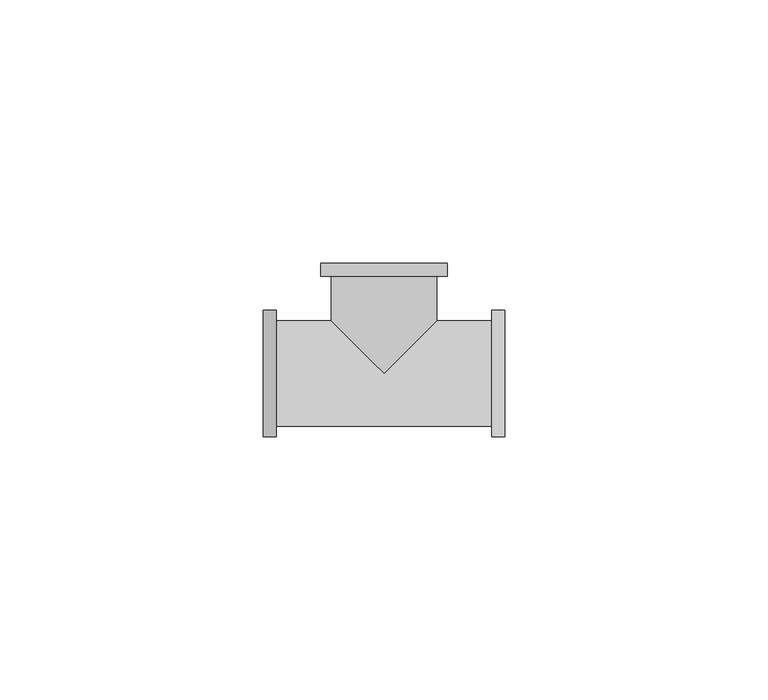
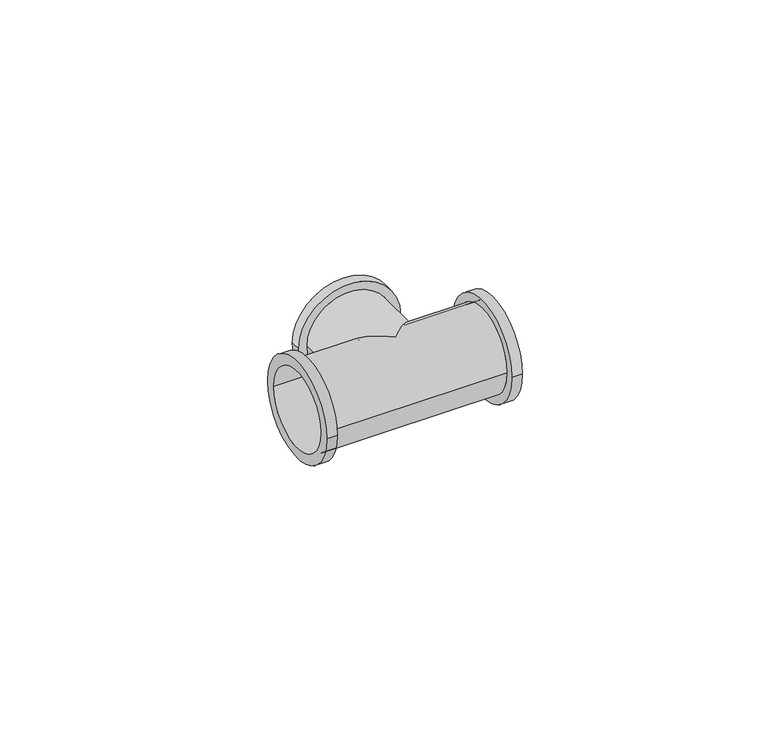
"""IFC4 building model written with IfcOpenShell, lengths in millimetres: pipe fitting geometry, БИР ПЕКС_КМП_Тройник_ВР : Тройник с внутренней резьбой_КМП."""

import ifcopenshell
import ifcopenshell.guid

model = None  # the IFC model being written
_history = None  # IfcOwnerHistory: only IFC2X3 demands one
_inside = {}  # id of a spatial element -> (the spatial element, [elements in it])
_under = {}  # id of a project, library or spatial element -> (it, [spatial elements below it])
_declared = {}  # id of a project -> (the project, [libraries it declares])
_typed = {}  # id of a type object -> (the type object, [elements of that type])
_made_of = {}  # id of a material, layer set ... -> (it, [elements and type objects made of it])


def new_model(schema):
    """Start an empty IFC model of exactly this schema.

    Asked for "IFC4X3", IfcOpenShell would pick the latest addendum, in which some entities
    have other attributes; the version numbers below select the first issue.
    IFC2X3 requires an IfcOwnerHistory on every rooted entity: one is made here for all.
    """
    global model, _history
    if schema == "IFC4X3":
        model = ifcopenshell.file(schema_version=(4, 3, 0, 0))
    else:
        model = ifcopenshell.file(schema=schema)
    _inside.clear()
    _under.clear()
    _declared.clear()
    _typed.clear()
    _made_of.clear()
    _history = None
    if model.schema == "IFC2X3":
        org = make("IfcOrganization", Name="unknown")
        user = make(
            "IfcPersonAndOrganization",
            ThePerson=make("IfcPerson", FamilyName="unknown"),
            TheOrganization=org,
        )
        app = make(
            "IfcApplication",
            ApplicationDeveloper=org,
            Version="unknown",
            ApplicationFullName="unknown",
            ApplicationIdentifier="unknown",
        )
        _history = make(
            "IfcOwnerHistory",
            OwningUser=user,
            OwningApplication=app,
            ChangeAction="ADDED",
            CreationDate=0,
        )
    return model


def make(cls, **values):
    """One entity of the class cls with the attributes given. An attribute that is None is left unset."""
    return model.create_entity(
        cls, **{name: value for name, value in values.items() if value is not None}
    )


def rooted(cls, **values):
    """An entity with a GlobalId (a new one), such as an element, a storey or a relation."""
    return make(cls, GlobalId=ifcopenshell.guid.new(), OwnerHistory=_history, **values)


def si_unit(unit_type, name, prefix=None):
    """IfcSIUnit, for example si_unit("LENGTHUNIT", "METRE", prefix="MILLI")."""
    return make("IfcSIUnit", UnitType=unit_type, Prefix=prefix, Name=name)


def assignment(units):
    """IfcUnitAssignment: the units of a project."""
    return None if units is None else make("IfcUnitAssignment", Units=units)


def point(xyz):
    """IfcCartesianPoint."""
    return None if xyz is None else make("IfcCartesianPoint", Coordinates=xyz)


def direction(xyz):
    """IfcDirection."""
    return None if xyz is None else make("IfcDirection", DirectionRatios=xyz)


def frame(location, z_axis=None, x_axis=None):
    """IfcAxis2Placement3D, a coordinate frame: its origin and axes. An axis left out is left unset."""
    return make(
        "IfcAxis2Placement3D",
        Location=point(location),
        Axis=direction(z_axis),
        RefDirection=direction(x_axis),
    )


def origin():
    """The frame at (0, 0, 0) with its axes left unset."""
    return frame((0.0, 0.0, 0.0))


def place(relative_to, where):
    """IfcLocalPlacement: puts the frame where relative to a parent placement (None: the world)."""
    return make(
        "IfcLocalPlacement", PlacementRelTo=relative_to, RelativePlacement=where
    )


def context(
    kind, dimensions, precision=None, world=None, true_north=None, identifier=None
):
    """IfcGeometricRepresentationContext, for example the 3D "Model" context."""
    return make(
        "IfcGeometricRepresentationContext",
        ContextIdentifier=identifier,
        ContextType=kind,
        CoordinateSpaceDimension=dimensions,
        Precision=precision,
        WorldCoordinateSystem=world,
        TrueNorth=true_north,
    )


def project(units=None, contexts=None):
    """IfcProject with its units and contexts."""
    return rooted(
        "IfcProject",
        Name="project",
        RepresentationContexts=contexts,
        UnitsInContext=assignment(units),
    )


def spatial(cls, under=None, at=None, **own):
    """A site, building, storey or space (cls), placed at a placement, below another one or the project."""
    s = rooted(cls, ObjectPlacement=at, **own)
    if under is not None:
        _under.setdefault(under.id(), (under, []))[1].append(s)
    return s


def polyline(points):
    """IfcPolyline through the points."""
    return make("IfcPolyline", Points=[point(p) for p in points])


def circle_curve(where, radius):
    """IfcCircle in the frame where."""
    return make("IfcCircle", Position=where, Radius=radius)


def ellipse_curve(where, semi_axis1, semi_axis2):
    """IfcEllipse in the frame where."""
    return make(
        "IfcEllipse", Position=where, SemiAxis1=semi_axis1, SemiAxis2=semi_axis2
    )


def shape(context_of_items, identifier, shape_type, items):
    """IfcShapeRepresentation: the items that make up one representation, for example the "Body"."""
    return make(
        "IfcShapeRepresentation",
        ContextOfItems=context_of_items,
        RepresentationIdentifier=identifier,
        RepresentationType=shape_type,
        Items=items,
    )


def source(mapping_origin, context_of_items, identifier, shape_type, items):
    """IfcRepresentationMap: a shape defined once, which mapped items show again and again."""
    return make(
        "IfcRepresentationMap",
        MappingOrigin=mapping_origin,
        MappedRepresentation=shape(context_of_items, identifier, shape_type, items),
    )


def transform(
    local_origin,
    x_axis=None,
    y_axis=None,
    z_axis=None,
    scale=None,
    scale2=None,
    scale3=None,
    uniform=True,
):
    """IfcCartesianTransformationOperator3D, or its non-uniform kind. x_axis, y_axis, z_axis: its Axis1, 2, 3."""
    if uniform:
        return make(
            "IfcCartesianTransformationOperator3D",
            Axis1=direction(x_axis),
            Axis2=direction(y_axis),
            LocalOrigin=point(local_origin),
            Scale=scale,
            Axis3=direction(z_axis),
        )
    return make(
        "IfcCartesianTransformationOperator3DnonUniform",
        Axis1=direction(x_axis),
        Axis2=direction(y_axis),
        LocalOrigin=point(local_origin),
        Scale=scale,
        Axis3=direction(z_axis),
        Scale2=scale2,
        Scale3=scale3,
    )


def mapped(mapping_source, mapping_target):
    """IfcMappedItem: shows the shape of a source again, moved by a transform."""
    return make(
        "IfcMappedItem", MappingSource=mapping_source, MappingTarget=mapping_target
    )


def made_of(thing, what):
    """Note that an element or type object is made of a material, layer set ...; save() writes the relation."""
    if what is not None:
        _made_of.setdefault(what.id(), (what, []))[1].append(thing)
    return thing


def element(
    cls,
    number,
    at=None,
    inside=None,
    cuts=None,
    type_object=None,
    material=None,
    context=None,
    identifier="Body",
    shape_type=None,
    held_by="IfcProductDefinitionShape",
    body=None,
    shapes=None,
    **own,
):
    """One element of the class cls, such as IfcWall. Its Tag is "e" and its number.

    at: its placement. inside: the storey or other place that contains it. cuts: it is an
    opening in that element (IfcRelVoidsElement). A single representation is given by context,
    identifier, shape_type and body (its items); several are given by shapes. held_by: the class
    of the entity that holds the representations. save() writes the other relations.
    """
    e = rooted(cls, Tag="e%d" % number, ObjectPlacement=at, **own)
    if body is not None:
        shapes = [shape(context, identifier, shape_type, body)]
    if shapes is not None:
        e.Representation = make(held_by, Representations=shapes)
    if inside is not None:
        _inside.setdefault(inside.id(), (inside, []))[1].append(e)
    if cuts is not None:
        rooted(
            "IfcRelVoidsElement", RelatingBuildingElement=cuts, RelatedOpeningElement=e
        )
    if type_object is not None:
        _typed.setdefault(type_object.id(), (type_object, []))[1].append(e)
    return made_of(e, material)


def aggregate(whole, parts):
    """IfcRelAggregates: a whole, such as a stair, and the parts it consists of."""
    return rooted("IfcRelAggregates", RelatingObject=whole, RelatedObjects=parts)


def save(model, path):
    """Write the relations noted so far, then the file.

    IfcRelAggregates (storeys below a building ...), IfcRelContainedInSpatialStructure (elements
    in a storey), IfcRelDefinesByType, IfcRelAssociatesMaterial and IfcRelDeclares: one each for
    every whole, place, type object, material and project.
    """
    for whole, parts in _under.values():
        aggregate(whole, parts)
    for where, things in _inside.values():
        rooted(
            "IfcRelContainedInSpatialStructure",
            RelatedElements=things,
            RelatingStructure=where,
        )
    for kind, things in _typed.values():
        rooted("IfcRelDefinesByType", RelatedObjects=things, RelatingType=kind)
    for what, things in _made_of.values():
        rooted("IfcRelAssociatesMaterial", RelatedObjects=things, RelatingMaterial=what)
    for by, libraries in _declared.values():
        rooted("IfcRelDeclares", RelatingContext=by, RelatedDefinitions=libraries)
    model.write(path)


def plane_surface(at):
    """IfcPlane: the flat surface through the origin of the frame at, square to its z axis."""
    return make("IfcPlane", Position=at)


def cylinder_surface(at, radius):
    """IfcCylindricalSurface: all points at the distance radius from the z axis of the frame at."""
    return make("IfcCylindricalSurface", Position=at, Radius=radius)


def revolved_surface(curve, axis_point, axis_direction):
    """IfcSurfaceOfRevolution: the curve turned about the line through axis_point along axis_direction."""
    return make(
        "IfcSurfaceOfRevolution",
        SweptCurve=make("IfcArbitraryOpenProfileDef", ProfileType="CURVE", Curve=curve),
        AxisPosition=make("IfcAxis1Placement", Location=point(axis_point), Axis=direction(axis_direction)),
    )


def advanced_brep(points, edges, surfaces, faces):
    """IfcAdvancedBrep: a solid bounded by faces that lie on surfaces and meet in shared edges.

    An edge is (start, end): straight between two places in points (the first is 0);
    or (start, end, curve); or (start, end, curve, False) where it runs against its curve.
    A face is (place in surfaces, loops), or (place, loops, False) where it looks against
    its surface's normal. A loop lists edges by number (the first is 1), with a minus sign
    where the edge is run from its end to its start. The first loop is the outer one.
    """
    corners = [point(p) for p in points]
    vertices = [make("IfcVertexPoint", VertexGeometry=c) for c in corners]
    made = []
    for start, end, *more in edges:
        made.append(
            make(
                "IfcEdgeCurve",
                EdgeStart=vertices[start],
                EdgeEnd=vertices[end],
                EdgeGeometry=more[0] if more else make("IfcPolyline", Points=[corners[start], corners[end]]),
                SameSense=more[1] if len(more) > 1 else True,
            )
        )
    hull = []
    for where, loops, *sense in faces:
        bounds = []
        for j, loop in enumerate(loops):
            ring = [make("IfcOrientedEdge", EdgeElement=made[abs(k) - 1], Orientation=k > 0) for k in loop]
            bounds.append(
                make(
                    "IfcFaceOuterBound" if j == 0 else "IfcFaceBound",
                    Bound=make("IfcEdgeLoop", EdgeList=ring),
                    Orientation=True,
                )
            )
        hull.append(make("IfcAdvancedFace", Bounds=bounds, FaceSurface=surfaces[where], SameSense=sense[0] if sense else True))
    return make("IfcAdvancedBrep", Outer=make("IfcClosedShell", CfsFaces=hull))


def pipe_fitting_54f7dc69(model_context):
    return source(origin(), model_context, "Body", "AdvancedBrep", [
        advanced_brep(
        [(-12.0, 21.0, 0.0), (12.0, 21.0, 0.0), (-9.5, 21.0, 0.0), (9.5, 21.0, 0.0), (10.0, 10.0, 0.0), (0.0, 0.0, -10.0), (-10.0, 10.0, 0.0), (-10.0, 18.5, 0.0), (10.0, 18.5, 0.0), (0.0, 0.0, 10.0), (23.0, -12.0, 0.0), (23.0, 12.0, 0.0), (23.0, 9.5, 0.0), (23.0, -9.5, 0.0), (-23.0, -12.0, 0.0), (-23.0, 12.0, 0.0), (-23.0, -9.5, 0.0), (-23.0, 9.5, 0.0), (20.5, 10.0, 0.0), (20.5, -10.0, 0.0), (-20.5, -10.0, 0.0), (-20.5, 10.0, 0.0), (-12.0, 18.5, 0.0), (12.0, 18.5, 0.0), (-20.5, -12.0, 0.0), (-20.5, 12.0, 0.0), (20.5, -12.0, 0.0), (20.5, 12.0, 0.0), (-9.5, 9.5, 0.0), (0.0, 0.0, -9.5), (9.5, 9.5, 0.0), (0.0, 0.0, 9.5)],
        [
            (0, 1, circle_curve(frame((0.0, 21.0, 0.0), z_axis=(0.0, 1.0, 0.0), x_axis=(1.0, 0.0, 0.0)), 12.0)),
            (1, 0, circle_curve(frame((0.0, 21.0, 0.0), z_axis=(0.0, 1.0, 0.0), x_axis=(1.0, 0.0, 0.0)), 12.0)),
            (2, 3, circle_curve(frame((0.0, 21.0, 0.0), z_axis=(0.0, -1.0, 0.0), x_axis=(1.0, 0.0, 0.0)), 9.5)),
            (3, 2, circle_curve(frame((0.0, 21.0, 0.0), z_axis=(0.0, -1.0, 0.0), x_axis=(1.0, 0.0, 0.0)), 9.5)),
            (4, 5, ellipse_curve(frame((0.0, 0.0, 0.0), z_axis=(-0.7071067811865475, 0.7071067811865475, 0.0), x_axis=(-0.7071067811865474, -0.7071067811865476, 0.0)), 14.1421356, 10.0)),
            (5, 6, ellipse_curve(frame((0.0, 0.0, 0.0), z_axis=(0.7071067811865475, 0.7071067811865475, 0.0), x_axis=(0.7071067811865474, -0.7071067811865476, 0.0)), 14.1421356, 10.0)),
            (6, 7),
            (7, 8, circle_curve(frame((0.0, 18.5, 0.0), z_axis=(0.0, -1.0, 0.0), x_axis=(1.0, 0.0, 0.0)), 10.0)),
            (8, 4),
            (9, 4, ellipse_curve(frame((0.0, 0.0, 0.0), z_axis=(-0.7071067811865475, 0.7071067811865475, 0.0), x_axis=(-0.7071067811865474, -0.7071067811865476, 0.0)), 14.1421356, 10.0)),
            (8, 7, circle_curve(frame((0.0, 18.5, 0.0), z_axis=(0.0, -1.0, 0.0), x_axis=(1.0, 0.0, 0.0)), 10.0)),
            (6, 9, ellipse_curve(frame((0.0, 0.0, 0.0), z_axis=(0.7071067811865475, 0.7071067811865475, 0.0), x_axis=(0.7071067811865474, -0.7071067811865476, 0.0)), 14.1421356, 10.0)),
            (10, 11, circle_curve(frame((23.0, 0.0, 0.0), z_axis=(1.0, 0.0, 0.0), x_axis=(0.0, 1.0, 0.0)), 12.0)),
            (11, 10, circle_curve(frame((23.0, 0.0, 0.0), z_axis=(1.0, 0.0, 0.0), x_axis=(0.0, 1.0, 0.0)), 12.0)),
            (12, 13, circle_curve(frame((23.0, 0.0, 0.0), z_axis=(-1.0, 0.0, 0.0), x_axis=(0.0, 1.0, 0.0)), 9.5)),
            (13, 12, circle_curve(frame((23.0, 0.0, 0.0), z_axis=(-1.0, 0.0, 0.0), x_axis=(0.0, 1.0, 0.0)), 9.5)),
            (14, 15, circle_curve(frame((-23.0, 0.0, 0.0), z_axis=(-1.0, 0.0, 0.0), x_axis=(0.0, 1.0, 0.0)), 12.0)),
            (15, 14, circle_curve(frame((-23.0, 0.0, 0.0), z_axis=(-1.0, 0.0, 0.0), x_axis=(0.0, 1.0, 0.0)), 12.0)),
            (16, 17, circle_curve(frame((-23.0, 0.0, 0.0), z_axis=(1.0, 0.0, 0.0), x_axis=(0.0, 1.0, 0.0)), 9.5)),
            (17, 16, circle_curve(frame((-23.0, 0.0, 0.0), z_axis=(1.0, 0.0, 0.0), x_axis=(0.0, 1.0, 0.0)), 9.5)),
            (4, 18),
            (18, 19, circle_curve(frame((20.5, 0.0, 0.0), z_axis=(-1.0, 0.0, 0.0), x_axis=(0.0, 1.0, 0.0)), 10.0)),
            (19, 20),
            (20, 21, circle_curve(frame((-20.5, 0.0, 0.0), z_axis=(1.0, 0.0, 0.0), x_axis=(0.0, 1.0, 0.0)), 10.0)),
            (21, 6),
            (21, 20, circle_curve(frame((-20.5, 0.0, 0.0), z_axis=(1.0, 0.0, 0.0), x_axis=(0.0, 1.0, 0.0)), 10.0)),
            (19, 18, circle_curve(frame((20.5, 0.0, 0.0), z_axis=(-1.0, 0.0, 0.0), x_axis=(0.0, 1.0, 0.0)), 10.0)),
            (22, 23, circle_curve(frame((0.0, 18.5, 0.0), z_axis=(0.0, -1.0, 0.0), x_axis=(1.0, 0.0, 0.0)), 12.0)),
            (23, 22, circle_curve(frame((0.0, 18.5, 0.0), z_axis=(0.0, -1.0, 0.0), x_axis=(1.0, 0.0, 0.0)), 12.0)),
            (22, 0),
            (1, 23),
            (24, 25, circle_curve(frame((-20.5, 0.0, 0.0), z_axis=(1.0, 0.0, 0.0), x_axis=(0.0, 1.0, 0.0)), 12.0)),
            (25, 24, circle_curve(frame((-20.5, 0.0, 0.0), z_axis=(1.0, 0.0, 0.0), x_axis=(0.0, 1.0, 0.0)), 12.0)),
            (15, 25),
            (24, 14),
            (26, 27, circle_curve(frame((20.5, 0.0, 0.0), z_axis=(-1.0, 0.0, 0.0), x_axis=(0.0, 1.0, 0.0)), 12.0)),
            (27, 26, circle_curve(frame((20.5, 0.0, 0.0), z_axis=(-1.0, 0.0, 0.0), x_axis=(0.0, 1.0, 0.0)), 12.0)),
            (10, 26),
            (27, 11),
            (2, 28),
            (28, 29, ellipse_curve(frame((0.0, 0.0, 0.0), z_axis=(-0.7071067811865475, -0.7071067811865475, 0.0), x_axis=(0.7071067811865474, -0.7071067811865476, 0.0)), 13.4350288, 9.5)),
            (29, 30, ellipse_curve(frame((0.0, 0.0, 0.0), z_axis=(0.7071067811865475, -0.7071067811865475, 0.0), x_axis=(-0.7071067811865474, -0.7071067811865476, 0.0)), 13.4350288, 9.5)),
            (30, 3),
            (30, 31, ellipse_curve(frame((0.0, 0.0, 0.0), z_axis=(0.7071067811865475, -0.7071067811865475, 0.0), x_axis=(-0.7071067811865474, -0.7071067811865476, 0.0)), 13.4350288, 9.5)),
            (31, 28, ellipse_curve(frame((0.0, 0.0, 0.0), z_axis=(-0.7071067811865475, -0.7071067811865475, 0.0), x_axis=(0.7071067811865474, -0.7071067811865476, 0.0)), 13.4350288, 9.5)),
            (16, 13),
            (12, 30),
            (28, 17),
        ],
        [
            plane_surface(frame((10.0, 21.0, 0.0), z_axis=(0.0, 1.0, 0.0), x_axis=(0.0, 0.0, -1.0))),
            cylinder_surface(frame((0.0, 21.0, 0.0), z_axis=(0.0, -1.0, 0.0), x_axis=(1.0, 0.0, 0.0)), 10.0),
            plane_surface(frame((23.0, 10.0, 0.0), z_axis=(1.0, 0.0, 0.0), x_axis=(0.0, 0.0, 1.0))),
            plane_surface(frame((-23.0, 10.0, 0.0), z_axis=(-1.0, 0.0, 0.0), x_axis=(0.0, 0.0, -1.0))),
            cylinder_surface(frame((-23.0, 0.0, 0.0), z_axis=(1.0, 0.0, 0.0), x_axis=(0.0, 1.0, 0.0)), 10.0),
            plane_surface(frame((12.0, 18.5, 0.0), z_axis=(0.0, -1.0, 0.0), x_axis=(0.0, 0.0, 1.0))),
            cylinder_surface(frame((0.0, 21.0, 0.0), z_axis=(0.0, -1.0, 0.0), x_axis=(1.0, 0.0, 0.0)), 12.0),
            plane_surface(frame((-20.5, 12.0, 0.0), z_axis=(1.0, 0.0, 0.0), x_axis=(0.0, 0.0, 1.0))),
            cylinder_surface(frame((-20.5, 0.0, 0.0), z_axis=(-1.0, 0.0, 0.0), x_axis=(0.0, 1.0, 0.0)), 12.0),
            plane_surface(frame((20.5, 12.0, 0.0), z_axis=(-1.0, 0.0, 0.0), x_axis=(0.0, 0.0, -1.0))),
            cylinder_surface(frame((20.5, 0.0, 0.0), z_axis=(1.0, 0.0, 0.0), x_axis=(0.0, 1.0, 0.0)), 12.0),
            revolved_surface(polyline([(9.5, -9.499999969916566, 0.0), (9.5, 21.0, 0.0)]), (0.0, 21.0, 0.0), (0.0, -1.0, 0.0)),
            revolved_surface(polyline([(23.0, 9.5, 0.0), (-23.0, 9.5, 0.0)]), (-23.0, 0.0, 0.0), (1.0, 0.0, 0.0)),
        ],
        [
            (0, [[1, 2], [3, 4]]),
            (1, [[5, 6, 7, 8, 9]]),
            (1, [[10, -9, 11, -7, 12]]),
            (2, [[13, 14], [15, 16]]),
            (3, [[17, 18], [19, 20]]),
            (4, [[-5, 21, 22, 23, 24, 25, -6]]),
            (4, [[-10, -12, -25, 26, -23, 27, -21]]),
            (5, [[28, 29], [-8, -11]]),
            (6, [[-28, 30, -2, 31]]),
            (6, [[-29, -31, -1, -30]]),
            (7, [[32, 33], [-24, -26]]),
            (8, [[-18, 34, -32, 35]]),
            (8, [[-17, -35, -33, -34]]),
            (9, [[36, 37], [-22, -27]]),
            (10, [[-13, 38, -37, 39]]),
            (10, [[-14, -39, -36, -38]]),
            (11, [[-3, 40, 41, 42, 43]]),
            (11, [[-4, -43, 44, 45, -40]]),
            (12, [[46, -15, 47, -42, -41, 48, -19]]),
            (12, [[-46, -20, -48, -45, -44, -47, -16]]),
        ],
    ),
    ])


if __name__ == "__main__":
    model = new_model("IFC4")
    model_context = context("Model", 3, world=origin())
    ifc_project = project(units=[si_unit("LENGTHUNIT", "METRE", prefix="MILLI")], contexts=[model_context])
    site = spatial("IfcSite", under=ifc_project)
    building = spatial("IfcBuilding", under=site)
    placement = place(None, origin())
    pipe_fitting_shape = pipe_fitting_54f7dc69(model_context)
    element("IfcPipeFitting", 1, ObjectType="БИР ПЕКС_КМП_Тройник_ВР : Тройник с внутренней резьбой_КМП", at=placement, inside=building, context=model_context, shape_type="MappedRepresentation", body=[
        mapped(pipe_fitting_shape, transform((0.0, 0.0, 0.0), x_axis=(1.0, 0.0, 0.0), y_axis=(0.0, 1.0, 0.0), z_axis=(0.0, 0.0, 1.0))),
    ])
    save(model, "model.ifc")
